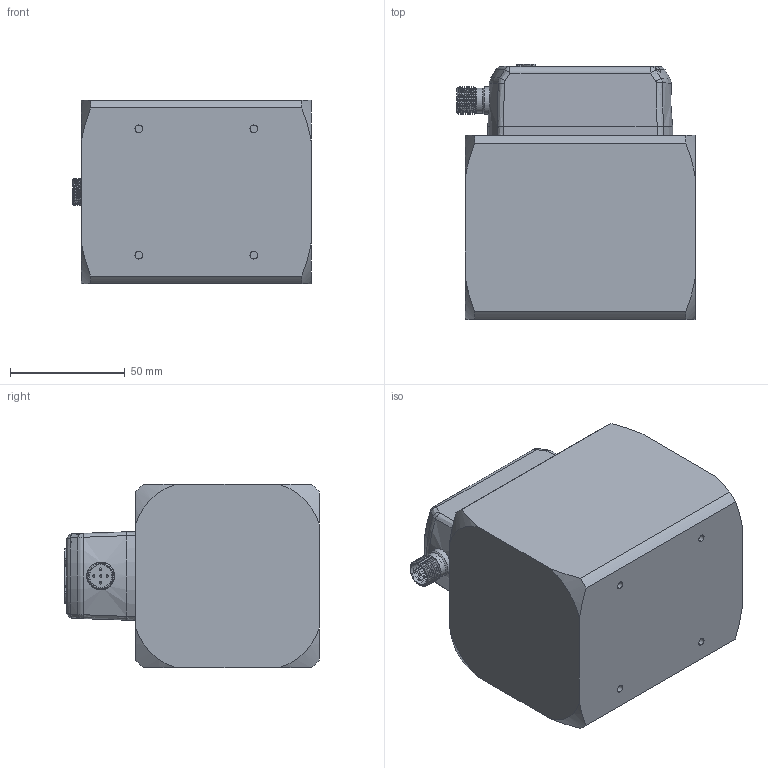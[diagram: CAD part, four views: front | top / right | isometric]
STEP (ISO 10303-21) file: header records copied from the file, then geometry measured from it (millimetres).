
FILE_DESCRIPTION( (''), '2;1');
FILE_NAME( 'QEKH_DN50_female-thread_standard.step', '2025-04-28T16:07:59+08:00', (''), (''), '', '', '');
FILE_SCHEMA (('AUTOMOTIVE_DESIGN { 1 0 10303 214 3 1 1 1 }'));
Length unit declared in the file: millimetre
Products named in the file (1): QEKH DN50_female-thread_standard
Bounding box: 103.71 x 110.9 x 80 mm (x, y, z)
Volume: 736606.5 mm3; surface area: 77680.6 mm2
Topology: 9 solids, 12 shells, 1092 faces, 2882 edges, 1884 vertices
Faces by surface type: plane 537, extrusion 239, cylinder 181, cone 50, bspline 44, torus 32, sphere 9
Full cylindrical faces by diameter (mm): 1 x10, 2.6 x4, 2.7 x5, 3.1 x1, 3.5 x7, 4.5 x4, 9.8 x2, 10.8 x1, 11.992 x2, 12 x4
Entity records: 37756 total; most frequent: CARTESIAN_POINT 11855, ORIENTED_EDGE 5580, DIRECTION 4457, EDGE_CURVE 2790, VECTOR 1875, VERTEX_POINT 1852, LINE 1636, AXIS2_PLACEMENT_3D 1291
